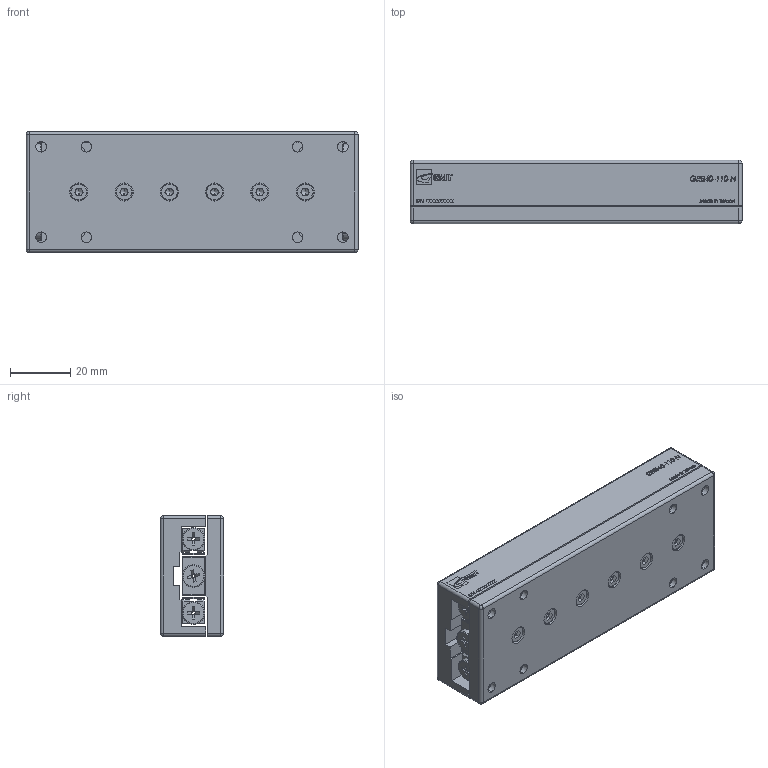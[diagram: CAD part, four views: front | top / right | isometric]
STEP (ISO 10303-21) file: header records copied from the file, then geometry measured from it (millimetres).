
FILE_DESCRIPTION (( 'STEP AP203' ), '1' );
FILE_NAME ('GRB40-110.STEP', '2012-10-19T05:22:39', ( '123' ), ( '' ), 'SwSTEP 2.0', 'SolidWorks 2012', '' );
FILE_SCHEMA (( 'CONFIG_CONTROL_DESIGN' ));
Length unit declared in the file: millimetre
Products named in the file (1): GRB40-110
Bounding box: 110 x 21 x 40 mm (x, y, z)
Surface area: 32159.5 mm2 (no closed solid volume)
Topology: 0 solids, 66 shells, 643 faces, 2999 edges, 2338 vertices
Faces by surface type: plane 387, cylinder 137, cone 60, torus 44, sphere 8, bspline 7
Entity records: 33851 total; most frequent: CARTESIAN_POINT 10492, DIRECTION 4571, ORIENTED_EDGE 4162, EDGE_CURVE 2963, VERTEX_POINT 2338, LINE 1953, VECTOR 1953, AXIS2_PLACEMENT_3D 1309
